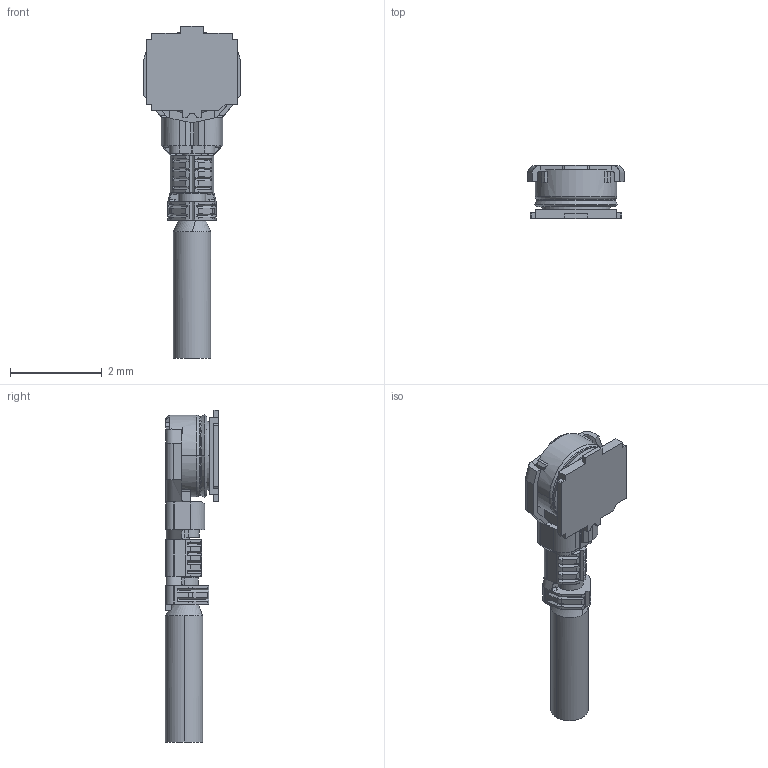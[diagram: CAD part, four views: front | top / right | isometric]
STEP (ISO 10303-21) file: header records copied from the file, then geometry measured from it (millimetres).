
FILE_DESCRIPTION (( 'STEP AP203' ), '1' );
FILE_NAME ('20572-001R+20579-001EC MATING STEP R1R3 ALL.STEP', '2018-04-27T08:48:55', ( '' ), ( '' ), 'SwSTEP 2.0', 'SolidWorks 2017', '' );
FILE_SCHEMA (( 'CONFIG_CONTROL_DESIGN' ));
Length unit declared in the file: millimetre
Products named in the file (1): 20572-001R+20579-001EC MATING STEP R1R3 ALL
Bounding box: 2.1 x 1.16 x 7.22 mm (x, y, z)
Volume: 6.3 mm3; surface area: 36.6 mm2
Topology: 1 solids, 1 shells, 333 faces, 886 edges, 562 vertices
Faces by surface type: plane 211, cylinder 67, cone 28, bspline 20, torus 7
Entity records: 11976 total; most frequent: CARTESIAN_POINT 3731, ORIENTED_EDGE 1772, DIRECTION 1597, EDGE_CURVE 886, VECTOR 641, LINE 641, VERTEX_POINT 562, AXIS2_PLACEMENT_3D 478
